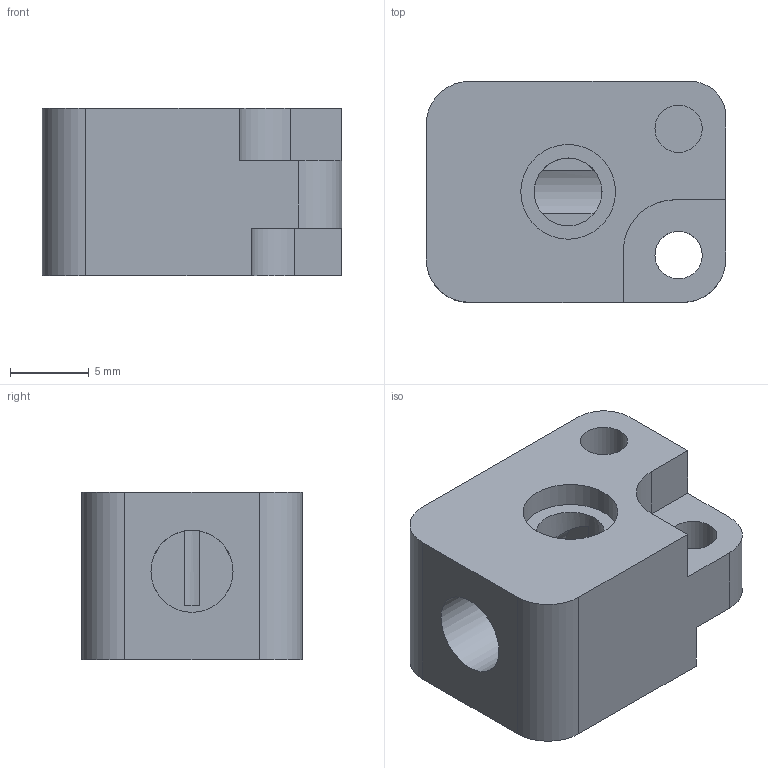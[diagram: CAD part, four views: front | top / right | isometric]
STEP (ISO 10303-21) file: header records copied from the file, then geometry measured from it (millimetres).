
FILE_DESCRIPTION(/* description */ (''),/* implementation_level */ '2;1');
FILE_NAME(/* name */ '11_LED_Housing.step',/* time_stamp */ '2026-09-19T10:15:31-07:00',/* author */ (''),/* organization */ (''),/* preprocessor_version */ 'ST-DEVELOPER v20.2',/* originating_system */ 'Autodesk Translation Framework v15.15.0.0',/* authorisation */ '');
FILE_SCHEMA (('AUTOMOTIVE_DESIGN { 1 0 10303 214 3 1 1 }'));
Length unit declared in the file: millimetre
Products named in the file (1): 2026-09-19-10-15-31-847
Bounding box: 19 x 14 x 10.6 mm (x, y, z)
Volume: 2185.4 mm3; surface area: 1435.9 mm2
Topology: 1 solids, 1 shells, 31 faces, 75 edges, 50 vertices
Faces by surface type: plane 18, cylinder 13
Full cylindrical faces by diameter (mm): 3 x2, 4.3 x1, 5.2 x1, 6 x1
Entity records: 1025 total; most frequent: CARTESIAN_POINT 235, DIRECTION 160, ORIENTED_EDGE 150, EDGE_CURVE 75, AXIS2_PLACEMENT_3D 57, VERTEX_POINT 50, LINE 46, VECTOR 46
